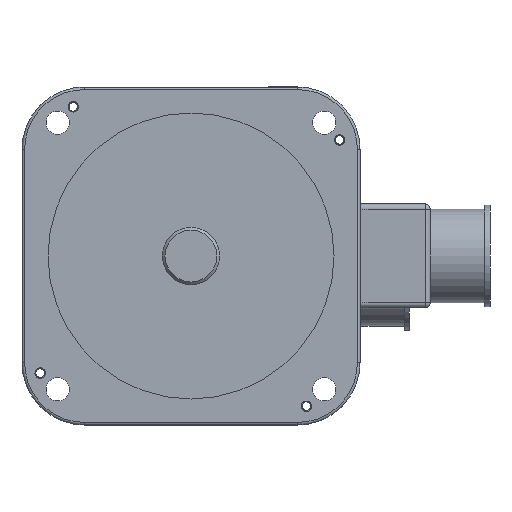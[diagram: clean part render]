
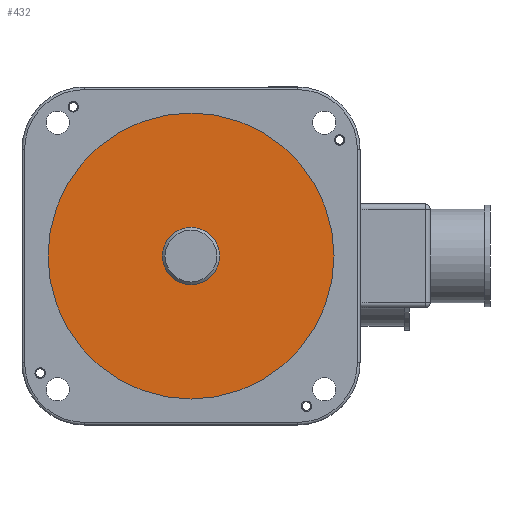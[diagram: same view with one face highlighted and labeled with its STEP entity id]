
A CAD part, left-side view. The second image highlights one B-rep face of the part: STEP entity #432.
In plain terms, the highlighted planar face has unit normal (-1, 0, 0).
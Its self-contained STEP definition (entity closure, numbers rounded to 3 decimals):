
#347=FACE_BOUND('',#963,.T.);
#348=FACE_BOUND('',#964,.T.);
#432=ADVANCED_FACE('',(#347,#348),#662,.F.);
#662=PLANE('',#4035);
#963=EDGE_LOOP('',(#1359));
#964=EDGE_LOOP('',(#1360));
#1359=ORIENTED_EDGE('',*,*,#2774,.T.);
#1360=ORIENTED_EDGE('',*,*,#2777,.F.);
#2425=VERTEX_POINT('',#6017);
#2428=VERTEX_POINT('',#6025);
#2774=EDGE_CURVE('',#2425,#2425,#3778,.T.);
#2777=EDGE_CURVE('',#2428,#2428,#3781,.T.);
#3778=CIRCLE('',#4028,11.);
#3781=CIRCLE('',#4033,55.);
#4028=AXIS2_PLACEMENT_3D('',#6016,#4667,#4668);
#4033=AXIS2_PLACEMENT_3D('',#6024,#4677,#4678);
#4035=AXIS2_PLACEMENT_3D('',#6027,#4681,#4682);
#4667=DIRECTION('',(1.,0.,0.));
#4668=DIRECTION('',(0.,1.,0.));
#4677=DIRECTION('',(1.,0.,0.));
#4678=DIRECTION('',(0.,1.,0.));
#4681=DIRECTION('',(1.,0.,0.));
#4682=DIRECTION('',(0.,0.,-1.));
#6016=CARTESIAN_POINT('',(52.,0.,0.));
#6017=CARTESIAN_POINT('',(52.,11.,0.));
#6024=CARTESIAN_POINT('',(52.,0.,0.));
#6025=CARTESIAN_POINT('',(52.,55.,0.));
#6027=CARTESIAN_POINT('',(52.,0.,0.));
